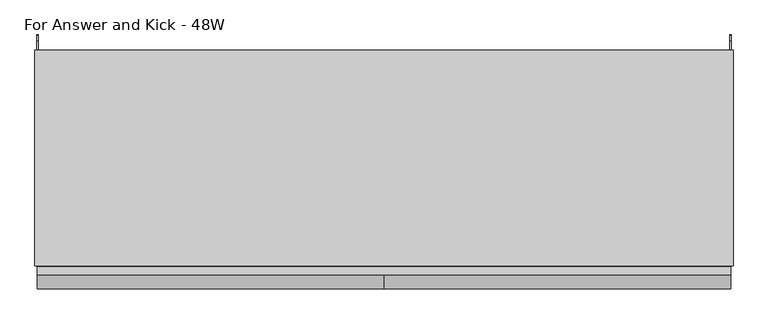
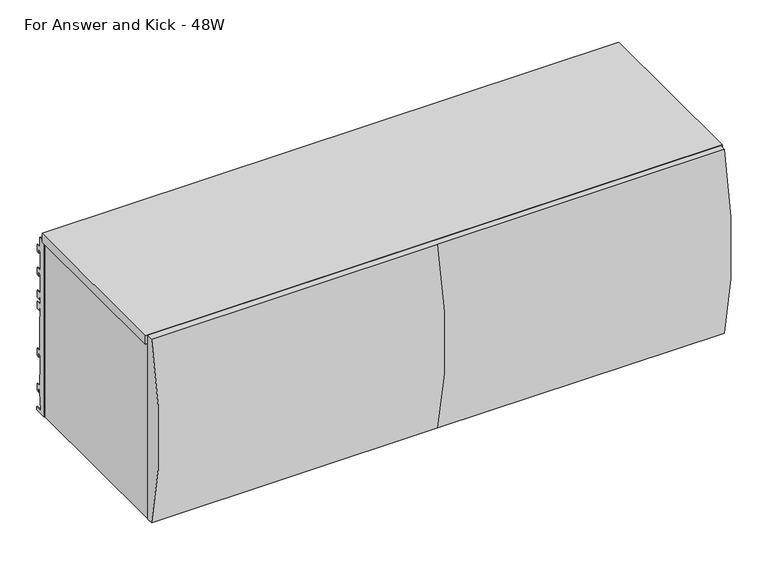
"""IFC4 building model written with IfcOpenShell, lengths in millimetres: furniture geometry, Steelcase - Universal Storage - Over the Case Bin - Radius Front : For Answer and Kick - 48W."""

from ifc_helpers import new_model, si_unit, frame, origin, place, context, project, spatial, polyline, circle_curve, outline, extrude, source, transform, mapped, element, save
from ifc_brep_helpers import plane_surface, cylinder_surface, advanced_brep


def for_answer_and_kick_48w_63cefb38(model_context):
    return source(origin(), model_context, "Body", "SolidModel", [
        extrude(outline(polyline([(0.0, 1657.096), (15.428165, 1657.096), (15.428165, 1635.9725192), (24.6737648, 1635.9725192), (24.6737648, 1620.2499324), (17.7141651, 1620.2499324), (17.7141651, 1627.4034202), (15.428165, 1627.4034202), (13.3707653, 1623.8398995), (13.3707653, 1584.7332049), (24.4959651, 1584.7332049), (24.4959651, 1569.0106181), (17.7141651, 1569.0106181), (17.7141651, 1576.1734076), (15.428165, 1576.1734076), (13.3707653, 1572.6099624), (13.3707653, 1533.4938907), (24.6737648, 1533.4938907), (24.6737648, 1517.7713038), (17.5768, 1517.7713038), (17.5768, 1524.9340934), (15.4248855, 1524.9340934), (13.3349998, 1521.3219111), (13.3349998, 1508.4166423), (24.6737648, 1508.4166423), (24.6737648, 1492.6940555), (17.5768, 1492.6940555), (17.5768, 1499.856845), (15.4205129, 1499.856845), (13.3933344, 1496.3530466), (13.3933344, 1483.6530466), (15.428165, 1479.2893385), (15.428165, 1403.8551467), (24.6737648, 1403.8551467), (24.6737648, 1388.1325599), (17.7141651, 1388.1325599), (17.7141651, 1395.2982562), (15.428165, 1395.2982562), (13.3306079, 1391.6651808), (13.3306079, 1353.5651808), (15.428165, 1349.9321054), (15.428165, 1325.1000701), (24.6737648, 1325.1000701), (24.6737648, 1309.3774833), (17.7141651, 1309.3774833), (17.7141651, 1316.5328605), (15.428165, 1316.5328605), (15.428165, 1303.5355433), (13.2046809, 1299.684356), (13.2046809, 1282.9679719), (11.2879653, 1282.9679719), (11.2879653, 1271.9303504), (26.4009645, 1271.9303504), (26.4009645, 1265.428), (0.0, 1265.428), (0.0, 1657.096)])), frame((1213.6882, 0.0, 0.0), z_axis=(1.0, 0.0, 0.0), x_axis=(0.0, 1.0, 0.0)), (0.0, 0.0, 1.0), 1.905),
        extrude(outline(polyline([(0.0, 1657.096), (15.428165, 1657.096), (15.428165, 1635.9725192), (24.6737648, 1635.9725192), (24.6737648, 1620.2499324), (17.7141651, 1620.2499324), (17.7141651, 1627.4034202), (15.428165, 1627.4034202), (13.3707653, 1623.8398995), (13.3707653, 1584.7332049), (24.4959651, 1584.7332049), (24.4959651, 1569.0106181), (17.7141651, 1569.0106181), (17.7141651, 1576.1734076), (15.428165, 1576.1734076), (13.3707653, 1572.6099624), (13.3707653, 1533.4938907), (24.6737648, 1533.4938907), (24.6737648, 1517.7713038), (17.5768, 1517.7713038), (17.5768, 1524.9340934), (15.4248855, 1524.9340934), (13.3349998, 1521.3219111), (13.3349998, 1508.4166423), (24.6737648, 1508.4166423), (24.6737648, 1492.6940555), (17.5768, 1492.6940555), (17.5768, 1499.856845), (15.4205129, 1499.856845), (13.3933344, 1496.3530466), (13.3933344, 1483.6530466), (15.428165, 1479.2893385), (15.428165, 1403.8551467), (24.6737648, 1403.8551467), (24.6737648, 1388.1325599), (17.7141651, 1388.1325599), (17.7141651, 1395.2982562), (15.428165, 1395.2982562), (13.3306079, 1391.6651808), (13.3306079, 1353.5651808), (15.428165, 1349.9321054), (15.428165, 1325.1000701), (24.6737648, 1325.1000701), (24.6737648, 1309.3774833), (17.7141651, 1309.3774833), (17.7141651, 1316.5328605), (15.428165, 1316.5328605), (15.428165, 1303.5355433), (13.2046809, 1299.684356), (13.2046809, 1282.9679719), (11.2879653, 1282.9679719), (11.2879653, 1271.9303504), (26.4009645, 1271.9303504), (26.4009645, 1265.428), (0.0, 1265.428), (0.0, 1657.096)])), frame((3.6068, 0.0, 0.0), z_axis=(1.0, 0.0, 0.0), x_axis=(0.0, 1.0, 0.0)), (0.0, 0.0, 1.0), 1.905),
        advanced_brep(
        [(1214.7703, -393.0769518, 1677.2612846), (1214.7703, -393.0769518, 1266.8226746), (1214.7703, -379.476, 1266.8226746), (1214.7703, -379.476, 1677.2612846), (609.6, -393.0769518, 1677.2612846), (609.6, -393.0769518, 1266.8226746), (4.4448587, -393.0769518, 1266.8226746), (4.4448587, -379.476, 1266.8226746), (4.4448587, -379.476, 1677.2612846), (4.4448587, -393.0769518, 1677.2612846)],
        [
            (0, 1, circle_curve(frame((1214.7703, 352.6331971, 1472.0419796), z_axis=(1.0, 0.0, 0.0), x_axis=(0.0, 1.0, 0.0)), 773.4329895)),
            (1, 2),
            (2, 3),
            (3, 0),
            (0, 4),
            (4, 5, circle_curve(frame((609.6, 352.6331971, 1472.0419796), z_axis=(1.0, 0.0, 0.0), x_axis=(0.0, 1.0, 0.0)), 773.4329895)),
            (5, 1),
            (5, 6),
            (6, 7),
            (7, 2),
            (7, 8),
            (8, 3),
            (8, 9),
            (9, 4),
            (6, 9, circle_curve(frame((4.4448587, 352.6331971, 1472.0419796), z_axis=(-1.0, 0.0, 0.0), x_axis=(0.0, 1.0, 0.0)), 773.4329895)),
        ],
        [
            plane_surface(frame((1214.7703, 1126.0661866, 1472.0419796), z_axis=(1.0, 0.0, 0.0), x_axis=(0.0, 0.0, 1.0))),
            cylinder_surface(frame((609.6, 352.6331971, 1472.0419796), z_axis=(1.0, 0.0, 0.0), x_axis=(0.0, 1.0, 0.0)), 773.4329895),
            plane_surface(frame((1214.7703, -393.0769518, 1266.8226746), z_axis=(0.0, 0.0, -1.0), x_axis=(-1.0, 0.0, 0.0))),
            plane_surface(frame((1214.7703, -379.476, 1266.8226746), z_axis=(0.0, 1.0, 0.0), x_axis=(-1.0, 0.0, 0.0))),
            plane_surface(frame((1214.7703, -379.476, 1677.2612846), z_axis=(0.0, 0.0, 1.0), x_axis=(-1.0, 0.0, 0.0))),
            plane_surface(frame((4.4448587, 1126.0661866, 1472.0419796), z_axis=(-1.0, 0.0, 0.0), x_axis=(0.0, 0.0, -1.0))),
            cylinder_surface(frame((4.4448587, 352.6331971, 1472.0419796), z_axis=(1.0, 0.0, 0.0), x_axis=(0.0, 1.0, 0.0)), 773.4329895),
        ],
        [
            (0, [[1, 2, 3, 4]]),
            (1, [[-1, 5, 6, 7]]),
            (2, [[-2, -7, 8, 9, 10]]),
            (3, [[-3, -10, 11, 12]]),
            (4, [[-4, -12, 13, 14, -5]]),
            (5, [[-13, -11, -9, 15]]),
            (6, [[-15, -8, -6, -14]]),
        ],
    ),
        extrude(outline(polyline([(1219.2, -377.213238), (0.0, -377.213238), (0.0, 0.0), (1219.2, 0.0), (1219.2, -377.213238)])), frame((0.0, 0.0, 1657.35), z_axis=(0.0, 0.0, 1.0), x_axis=(1.0, 0.0, 0.0)), (0.0, 0.0, 1.0), 19.05),
        extrude(outline(polyline([(15.875, -377.213238), (5.5118, -377.213238), (5.5118, 0.0), (15.875, 0.0), (15.875, -377.213238)])), frame((0.0, 0.0, 1265.428), z_axis=(0.0, 0.0, 1.0), x_axis=(1.0, 0.0, 0.0)), (0.0, 0.0, 1.0), 391.6679457),
        extrude(outline(polyline([(1218.0568665, -377.213238), (1203.325, -377.213238), (1203.325, 0.0), (1218.0568665, 0.0), (1218.0568665, -377.213238)])), frame((0.0, 0.0, 1265.428), z_axis=(0.0, 0.0, 1.0), x_axis=(1.0, 0.0, 0.0)), (0.0, 0.0, 1.0), 391.6679457),
        extrude(outline(polyline([(-35.4584098, 1372.819257), (-27.0763996, 1372.819257), (-27.0763996, 1360.1191601), (-33.4264117, 1360.1191601), (-33.4264117, 1323.1622589), (-27.0763996, 1323.1622589), (-27.0763996, 1265.428), (-35.4584098, 1265.428), (-35.4584098, 1293.054213), (-46.1263996, 1293.054213), (-46.1263996, 1268.1875622), (-59.9694137, 1268.1875622), (-59.9694137, 1294.8575912), (-332.8542818, 1294.8575912), (-332.8542818, 1268.1875622), (-377.3042823, 1268.1875622), (-377.3042823, 1310.7072052), (-35.4584098, 1310.7072052), (-35.4584098, 1372.819257)])), frame((15.875, 0.0, 0.0), z_axis=(1.0, 0.0, 0.0), x_axis=(0.0, 1.0, 0.0)), (0.0, 0.0, 1.0), 1187.45),
    ])


if __name__ == "__main__":
    model = new_model("IFC4")
    model_context = context("Model", 3, world=origin())
    ifc_project = project(units=[si_unit("LENGTHUNIT", "METRE", prefix="MILLI")], contexts=[model_context])
    site = spatial("IfcSite", under=ifc_project)
    building = spatial("IfcBuilding", under=site)
    placement = place(None, origin())
    for_answer_and_kick_48w_shape = for_answer_and_kick_48w_63cefb38(model_context)
    element("IfcFurniture", 1, ObjectType="Steelcase - Universal Storage - Over the Case Bin - Radius Front : For Answer and Kick - 48W", at=placement, inside=building, context=model_context, shape_type="MappedRepresentation", body=[
        mapped(for_answer_and_kick_48w_shape, transform((0.0, 0.0, 0.0), x_axis=(1.0, 0.0, 0.0), y_axis=(0.0, 1.0, 0.0), z_axis=(0.0, 0.0, 1.0))),
    ])
    save(model, "model.ifc")
